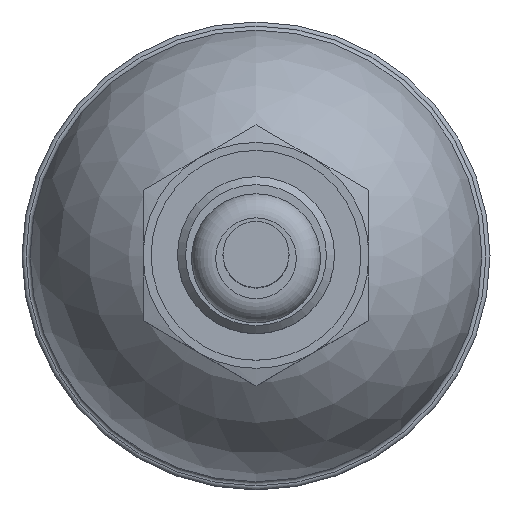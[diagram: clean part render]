
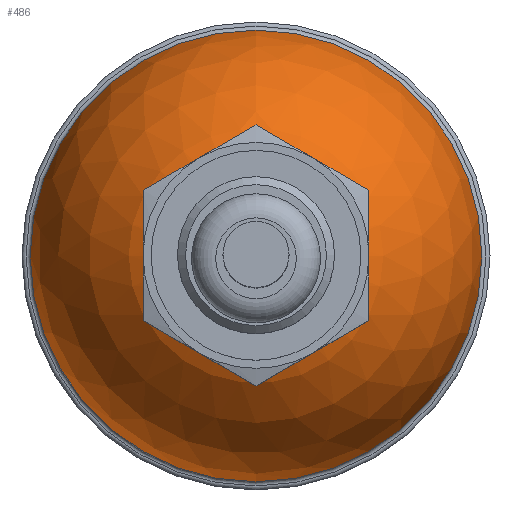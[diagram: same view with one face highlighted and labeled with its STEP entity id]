
A CAD part, top view. The second image highlights one B-rep face of the part: STEP entity #486.
In plain terms, the highlighted spherical face has radius 14 mm.
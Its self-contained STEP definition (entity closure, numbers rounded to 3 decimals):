
#457=SPHERICAL_SURFACE('',#1007,14.);
#486=ADVANCED_FACE('',(#551,#552),#457,.T.);
#551=FACE_BOUND('',#611,.T.);
#552=FACE_BOUND('',#612,.T.);
#611=EDGE_LOOP('',(#691));
#612=EDGE_LOOP('',(#692));
#691=ORIENTED_EDGE('',*,*,#886,.F.);
#692=ORIENTED_EDGE('',*,*,#880,.T.);
#826=VERTEX_POINT('',#1282);
#832=VERTEX_POINT('',#1298);
#880=EDGE_CURVE('',#826,#826,#952,.T.);
#886=EDGE_CURVE('',#832,#832,#958,.T.);
#952=CIRCLE('',#995,5.);
#958=CIRCLE('',#1005,13.991);
#995=AXIS2_PLACEMENT_3D('',#1281,#1090,#1091);
#1005=AXIS2_PLACEMENT_3D('',#1297,#1110,#1111);
#1007=AXIS2_PLACEMENT_3D('',#1300,#1114,#1115);
#1090=DIRECTION('',(0.,0.,-1.));
#1091=DIRECTION('',(0.,1.,0.));
#1110=DIRECTION('',(0.,0.,-1.));
#1111=DIRECTION('',(0.,1.,0.));
#1114=DIRECTION('',(0.,0.,-1.));
#1115=DIRECTION('',(-1.,0.,0.));
#1281=CARTESIAN_POINT('',(0.,0.,-3.723));
#1282=CARTESIAN_POINT('',(0.,5.,-3.723));
#1297=CARTESIAN_POINT('',(0.,0.,-16.309));
#1298=CARTESIAN_POINT('',(0.,13.991,-16.309));
#1300=CARTESIAN_POINT('',(0.,0.,-16.8));
